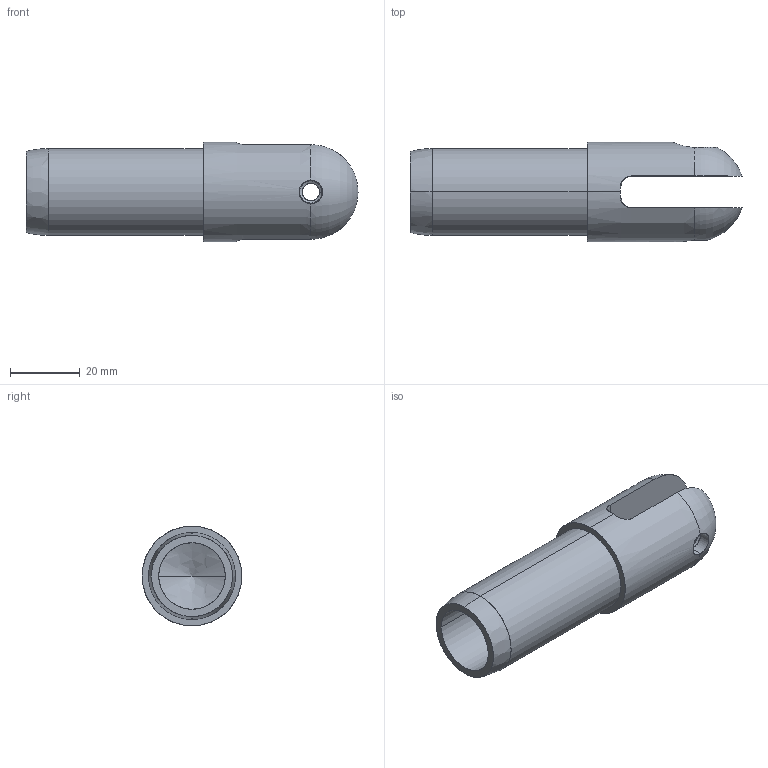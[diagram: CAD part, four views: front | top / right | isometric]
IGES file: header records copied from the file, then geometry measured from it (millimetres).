
Start section: SolidWorks IGES file using analytic representation for surfaces
Global section: file name: \\SERVER3\Design\_New Design Drive Folder List\_Design Vault\AAI\Modular Round Tube Connectors\Solidworks Models\STP Files\12202013\1.000 Inch Modular Connectors\DRP-002-0510-00.IGS; native system: SolidWorks 2013; preprocessor: SolidWorks 2013; author: tbraun; date: 131220.114723; units: inch
Bounding box: 95.22 x 28.57 x 28.57 mm (x, y, z)
Surface area: 13482.8 mm2 (no closed solid volume)
Topology: 0 solids, 0 shells, 35 faces, 670 edges, 668 vertices
Faces by surface type: bspline 18, revolution 17
